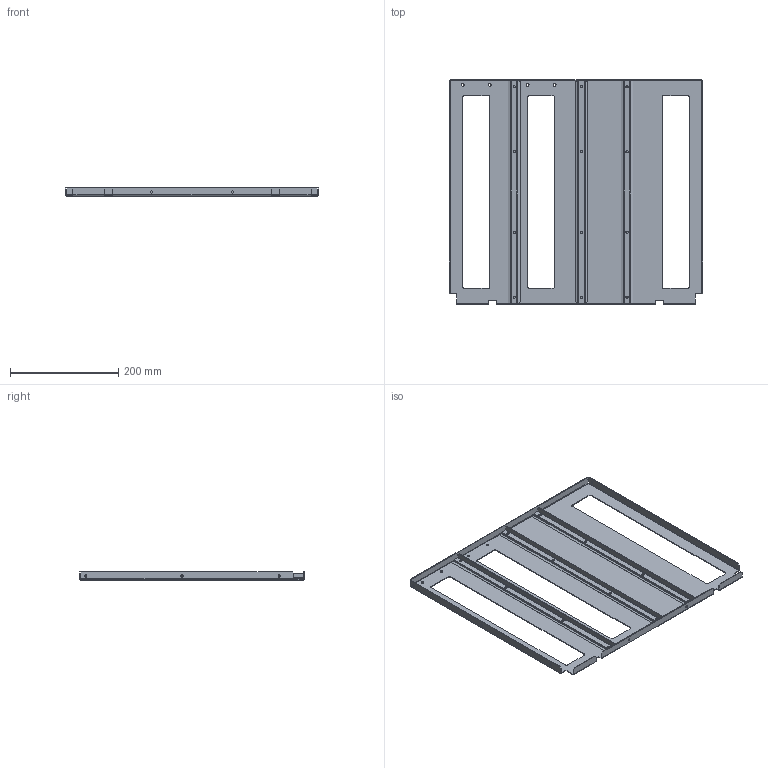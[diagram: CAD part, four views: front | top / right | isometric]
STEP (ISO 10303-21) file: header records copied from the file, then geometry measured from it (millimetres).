
FILE_DESCRIPTION(('CAx-IF Rec.Pracs.---Model Styling and Organization---1.2---2011-12-15','CAx-IF Rec.Pracs.---Geometric and Assembly Validation Properties---4.1---2014-06-16','CAx-IF Rec.Pracs.---PMI Polyline Presentation---2.0---2013-05-24'),'2;1');
FILE_NAME('R5M2W9M1BP.stp','2021-05-05T12:37:11+03:00',(''),(''),'STEP Interface 4.4 by CT CoreTechnologie','3D_Evolution4.4 by CT CoreTechnologie','');
FILE_SCHEMA(('AUTOMOTIVE_DESIGN { 1 0 10303 214 1 1 1 1 }'));
Length unit declared in the file: millimetre
Products named in the file (4): R5M2W9M1BP; RB.1899.00.00.0 ÑÁ; RB.1899.00.02.0; RB.1899.00.01.0_default
Assembly tree (5 placements, depth 3):
  R5M2W9M1BP
    RB.1899.00.00.0 ÑÁ
      RB.1899.00.02.0  x3
      RB.1899.00.01.0_default
Bounding box: 469 x 416.5 x 15 mm (x, y, z)
Surface area: 386117.1 mm2 (no closed solid volume)
Topology: 0 solids, 4 shells, 238 faces, 624 edges, 400 vertices
Faces by surface type: plane 138, cylinder 96, bspline 4
Entity records: 6107 total; most frequent: CARTESIAN_POINT 1084, DIRECTION 1012, ORIENTED_EDGE 992, EDGE_CURVE 496, VECTOR 356, LINE 356, AXIS2_PLACEMENT_3D 328, VERTEX_POINT 320
